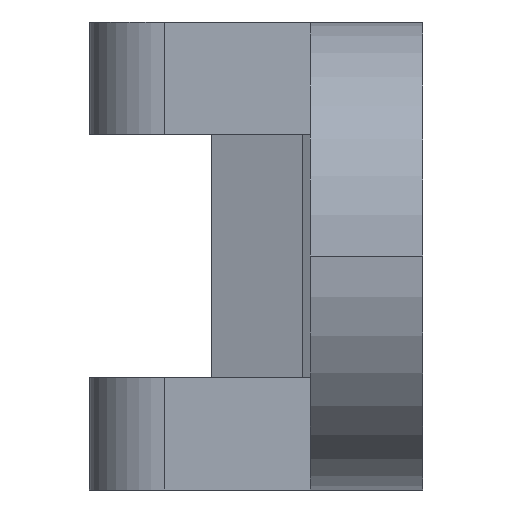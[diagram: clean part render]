
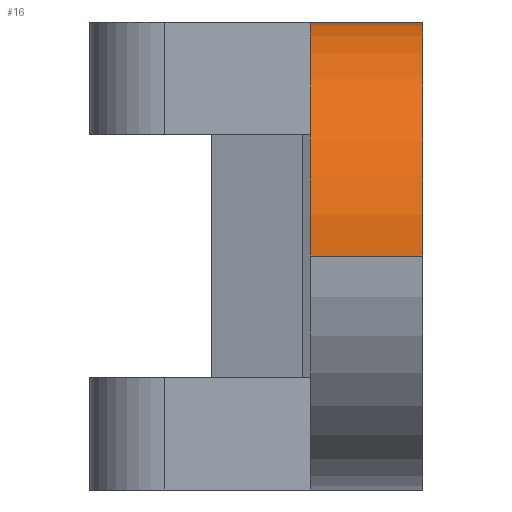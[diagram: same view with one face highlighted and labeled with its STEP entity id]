
A CAD part, left-side view. The second image highlights one B-rep face of the part: STEP entity #16.
In plain terms, the highlighted cylindrical face has radius 6.35 mm (diameter 12.7 mm), a partial arc.
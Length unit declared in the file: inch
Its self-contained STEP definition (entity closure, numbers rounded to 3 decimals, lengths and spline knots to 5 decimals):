
#16 = ADVANCED_FACE ( 'NONE', ( #1446 ), #1249, .T. ) ;
#48 = EDGE_CURVE ( 'NONE', #85, #1255, #1482, .T. ) ;
#85 = VERTEX_POINT ( 'NONE', #1409 ) ;
#176 = EDGE_CURVE ( 'NONE', #1032, #1513, #912, .T. ) ;
#210 = VECTOR ( 'NONE', #1381, 39.37008 ) ;
#217 = DIRECTION ( 'NONE',  ( 0., 1., 0. ) ) ;
#266 = VECTOR ( 'NONE', #616, 39.37008 ) ;
#369 = CARTESIAN_POINT ( 'NONE',  ( -1.125, 0.12, 0. ) ) ;
#405 = CIRCLE ( 'NONE', #651, 0.25 ) ;
#451 = CARTESIAN_POINT ( 'NONE',  ( -1.125, 0.12, 0. ) ) ;
#494 = DIRECTION ( 'NONE',  ( 0., 0., 1. ) ) ;
#570 = EDGE_LOOP ( 'NONE', ( #1191, #1031, #1165, #1389 ) ) ;
#616 = DIRECTION ( 'NONE',  ( 0., -1., 0. ) ) ;
#624 = CARTESIAN_POINT ( 'NONE',  ( -0.875, 0., 0.25 ) ) ;
#633 = CARTESIAN_POINT ( 'NONE',  ( -1.125, 0., 0. ) ) ;
#644 = DIRECTION ( 'NONE',  ( 0., -1., 0. ) ) ;
#651 = AXIS2_PLACEMENT_3D ( 'NONE', #1120, #644, #1476 ) ;
#743 = AXIS2_PLACEMENT_3D ( 'NONE', #1084, #1456, #494 ) ;
#878 = CARTESIAN_POINT ( 'NONE',  ( -0.875, 0., 0.25 ) ) ;
#912 = LINE ( 'NONE', #451, #210 ) ;
#960 = EDGE_CURVE ( 'NONE', #1255, #1032, #405, .T. ) ;
#1030 = CARTESIAN_POINT ( 'NONE',  ( -0.875, 0.12, 0. ) ) ;
#1031 = ORIENTED_EDGE ( 'NONE', *, *, #1149, .F. ) ;
#1032 = VERTEX_POINT ( 'NONE', #633 ) ;
#1084 = CARTESIAN_POINT ( 'NONE',  ( -0.875, 1.54037, 0. ) ) ;
#1120 = CARTESIAN_POINT ( 'NONE',  ( -0.875, 0., 0. ) ) ;
#1149 = EDGE_CURVE ( 'NONE', #1513, #85, #1337, .T. ) ;
#1165 = ORIENTED_EDGE ( 'NONE', *, *, #176, .F. ) ;
#1191 = ORIENTED_EDGE ( 'NONE', *, *, #48, .F. ) ;
#1213 = AXIS2_PLACEMENT_3D ( 'NONE', #1030, #217, #1499 ) ;
#1249 = CYLINDRICAL_SURFACE ( 'NONE', #743, 0.25 ) ;
#1255 = VERTEX_POINT ( 'NONE', #878 ) ;
#1337 = CIRCLE ( 'NONE', #1213, 0.25 ) ;
#1381 = DIRECTION ( 'NONE',  ( 0., 1., 0. ) ) ;
#1389 = ORIENTED_EDGE ( 'NONE', *, *, #960, .F. ) ;
#1409 = CARTESIAN_POINT ( 'NONE',  ( -0.875, 0.12, 0.25 ) ) ;
#1446 = FACE_OUTER_BOUND ( 'NONE', #570, .T. ) ;
#1456 = DIRECTION ( 'NONE',  ( 0., 1., 0. ) ) ;
#1476 = DIRECTION ( 'NONE',  ( 0., 0., 1. ) ) ;
#1482 = LINE ( 'NONE', #624, #266 ) ;
#1499 = DIRECTION ( 'NONE',  ( 1., 0., 0. ) ) ;
#1513 = VERTEX_POINT ( 'NONE', #369 ) ;
